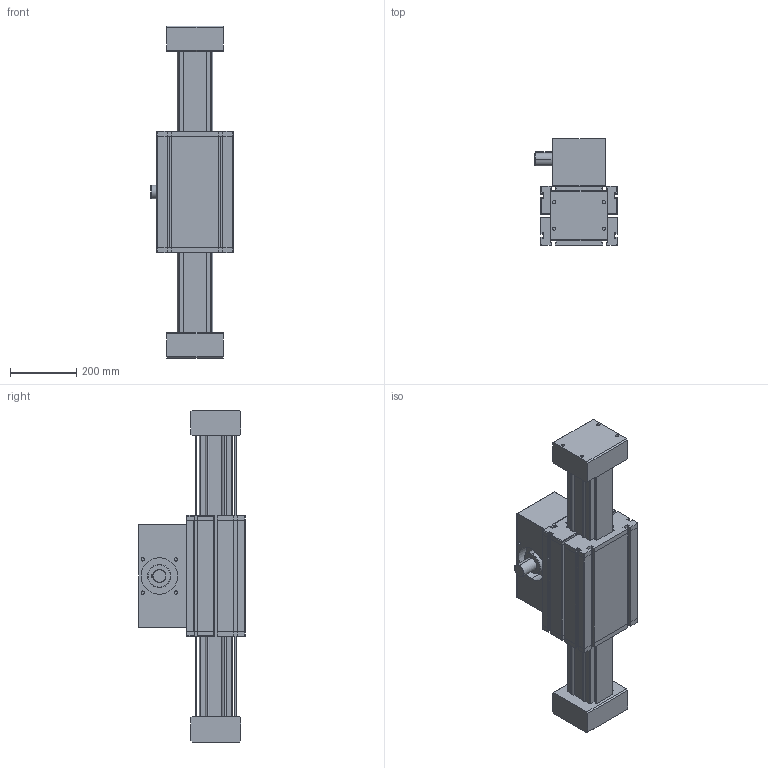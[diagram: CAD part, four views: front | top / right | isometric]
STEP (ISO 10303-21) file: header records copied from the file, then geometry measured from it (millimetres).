
FILE_DESCRIPTION (( 'STEP AP214' ), '1' );
FILE_NAME ('ELFZ100.STEP', '2023-09-11T08:31:28', ( '' ), ( '' ), 'SwSTEP 2.0', 'SolidWorks 2020', '' );
FILE_SCHEMA (( 'AUTOMOTIVE_DESIGN' ));
Length unit declared in the file: millimetre
Products named in the file (5): profile^ELFZ100; timing belt reverse unit carriage^ELFZ100_shaft pos. 1; timing belt reverse unit^ELFZ100_100; carriage^ELFZ100_carriage version 0; ELFZ100
Assembly tree (5 placements, depth 2):
  ELFZ100
    profile^ELFZ100
    carriage^ELFZ100_carriage version 0
    timing belt reverse unit carriage^ELFZ100_shaft pos. 1
    timing belt reverse unit^ELFZ100_100  x2
Bounding box: 248 x 321 x 1000 mm (x, y, z)
Volume: 28322648.5 mm3; surface area: 2213561.4 mm2
Topology: 17 solids, 17 shells, 629 faces, 1688 edges, 1102 vertices
Faces by surface type: plane 448, cylinder 163, sphere 12, cone 6
Entity records: 19442 total; most frequent: CARTESIAN_POINT 3411, ORIENTED_EDGE 3256, DIRECTION 3158, EDGE_CURVE 1628, VECTOR 1316, LINE 1316, VERTEX_POINT 1070, AXIS2_PLACEMENT_3D 921
